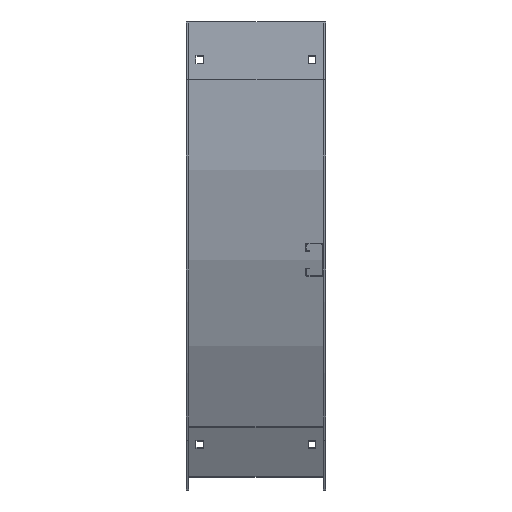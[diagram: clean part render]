
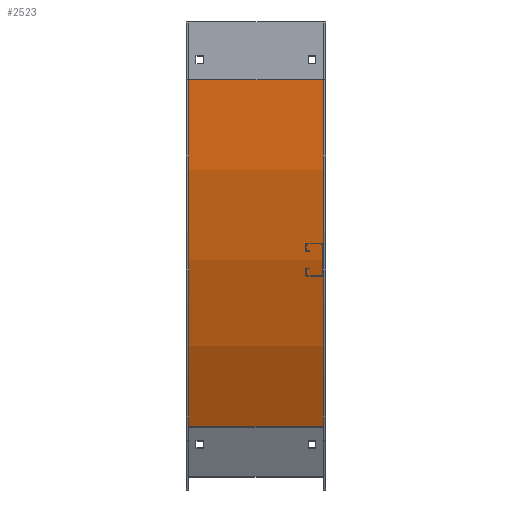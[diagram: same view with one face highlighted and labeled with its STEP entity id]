
A CAD part, left-side view. The second image highlights one B-rep face of the part: STEP entity #2523.
In plain terms, the highlighted cylindrical face has radius 919.226 mm (diameter 1838.45 mm), a partial arc.
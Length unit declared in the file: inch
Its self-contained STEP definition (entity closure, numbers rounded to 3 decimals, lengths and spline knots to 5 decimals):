
#1560=CARTESIAN_POINT('',(-7.13,-36.09,3.));
#1561=DIRECTION('',(1.,0.,0.));
#1562=DIRECTION('',(0.,1.,0.));
#1563=AXIS2_PLACEMENT_3D('',#1560,#1561,#1562);
#1753=DIRECTION('',(-1.,0.,0.));
#1754=VECTOR('',#1753,7.02);
#1755=CARTESIAN_POINT('',(-0.11,-4.74854,21.095));
#1756=LINE('',#1755,#1754);
#1793=DIRECTION('',(-1.,0.,0.));
#1794=VECTOR('',#1793,7.02);
#1795=CARTESIAN_POINT('',(-0.11,0.1,3.));
#1796=LINE('',#1795,#1794);
#1797=CARTESIAN_POINT('',(-0.11,-36.09,3.));
#1798=DIRECTION('',(1.,0.,0.));
#1799=DIRECTION('',(0.,1.,0.));
#1800=AXIS2_PLACEMENT_3D('',#1797,#1798,#1799);
#1924=CARTESIAN_POINT('',(-0.11,0.1,3.));
#1925=CARTESIAN_POINT('',(-7.13,0.1,3.));
#1926=VERTEX_POINT('',#1924);
#1927=VERTEX_POINT('',#1925);
#1948=CARTESIAN_POINT('',(-0.11,-4.74854,21.095));
#1949=CARTESIAN_POINT('',(-7.13,-4.74854,21.095));
#1950=VERTEX_POINT('',#1948);
#1951=VERTEX_POINT('',#1949);
#2512=CARTESIAN_POINT('',(-1.,-36.09,3.));
#2513=DIRECTION('',(1.,0.,0.));
#2514=DIRECTION('',(0.,-1.,0.));
#2515=AXIS2_PLACEMENT_3D('',#2512,#2513,#2514);
#2516=CYLINDRICAL_SURFACE('',#2515,36.19);
#2517=ORIENTED_EDGE('',*,*,#2297,.F.);
#2518=ORIENTED_EDGE('',*,*,#2338,.T.);
#2519=ORIENTED_EDGE('',*,*,#2485,.T.);
#2520=ORIENTED_EDGE('',*,*,#2275,.F.);
#2521=EDGE_LOOP('',(#2517,#2518,#2519,#2520));
#2522=FACE_OUTER_BOUND('',#2521,.F.);
#2523=ADVANCED_FACE('',(#2522),#2516,.T.);
#1564=CIRCLE('',#1563,36.19);
#1801=CIRCLE('',#1800,36.19);
#2275=EDGE_CURVE('',#1927,#1951,#1564,.T.);
#2297=EDGE_CURVE('',#1926,#1927,#1796,.T.);
#2338=EDGE_CURVE('',#1926,#1950,#1801,.T.);
#2485=EDGE_CURVE('',#1950,#1951,#1756,.T.);
